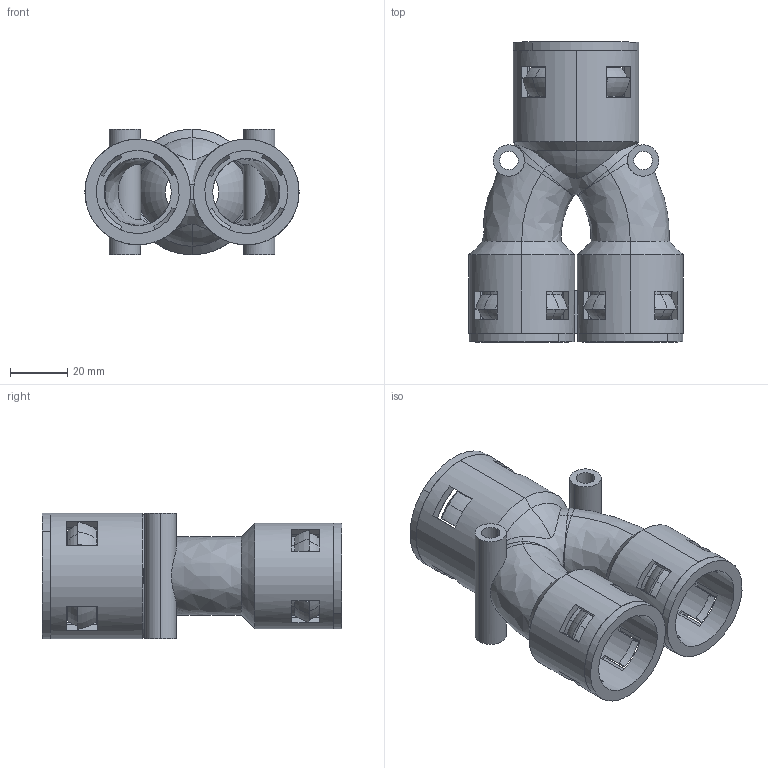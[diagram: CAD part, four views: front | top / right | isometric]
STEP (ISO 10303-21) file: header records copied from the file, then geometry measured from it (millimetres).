
FILE_DESCRIPTION (( 'STEP AP203' ), '1' );
FILE_NAME ('WQY-PA-AD34.5-2X28.5.STEP', '2012-06-07T08:24:31', ( '迾輿躂瑞' ), ( 'WwW.YlmF.CoM' ), 'SwSTEP 2.0', 'SolidWorks 2010', '' );
FILE_SCHEMA (( 'CONFIG_CONTROL_DESIGN' ));
Length unit declared in the file: millimetre
Products named in the file (4): WQY-PA-AD34.5-2X28.5; NSK-AD28.5; NSK-AD34.5
Assembly tree (4 placements, depth 2):
  WQY-PA-AD34.5-2X28.5
    WQY-PA-AD34.5-2X28.5
    NSK-AD34.5
    NSK-AD28.5  x2
Bounding box: 75 x 105 x 44 mm (x, y, z)
Volume: 58289.4 mm3; surface area: 56342.4 mm2
Topology: 4 solids, 4 shells, 422 faces, 1214 edges, 793 vertices
Faces by surface type: plane 224, cylinder 80, torus 49, bspline 35, cone 34
Entity records: 13815 total; most frequent: CARTESIAN_POINT 4383, ORIENTED_EDGE 1960, DIRECTION 1864, EDGE_CURVE 980, AXIS2_PLACEMENT_3D 734, VERTEX_POINT 639, CIRCLE 419, EDGE_LOOP 399
